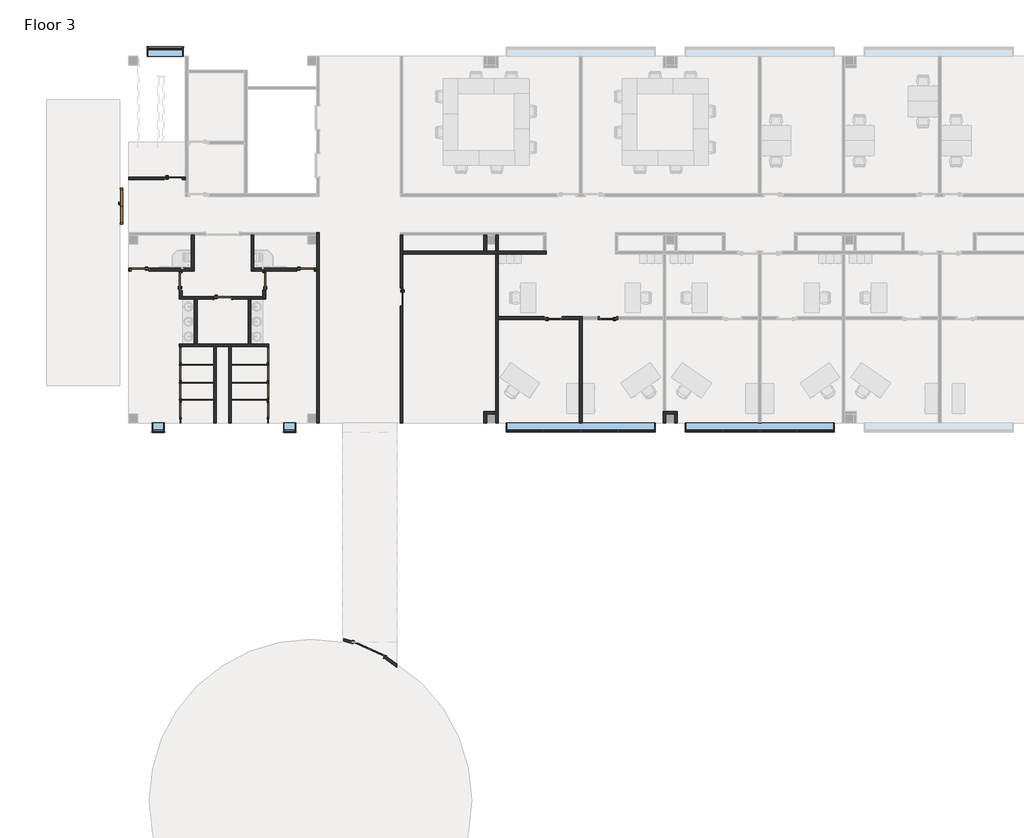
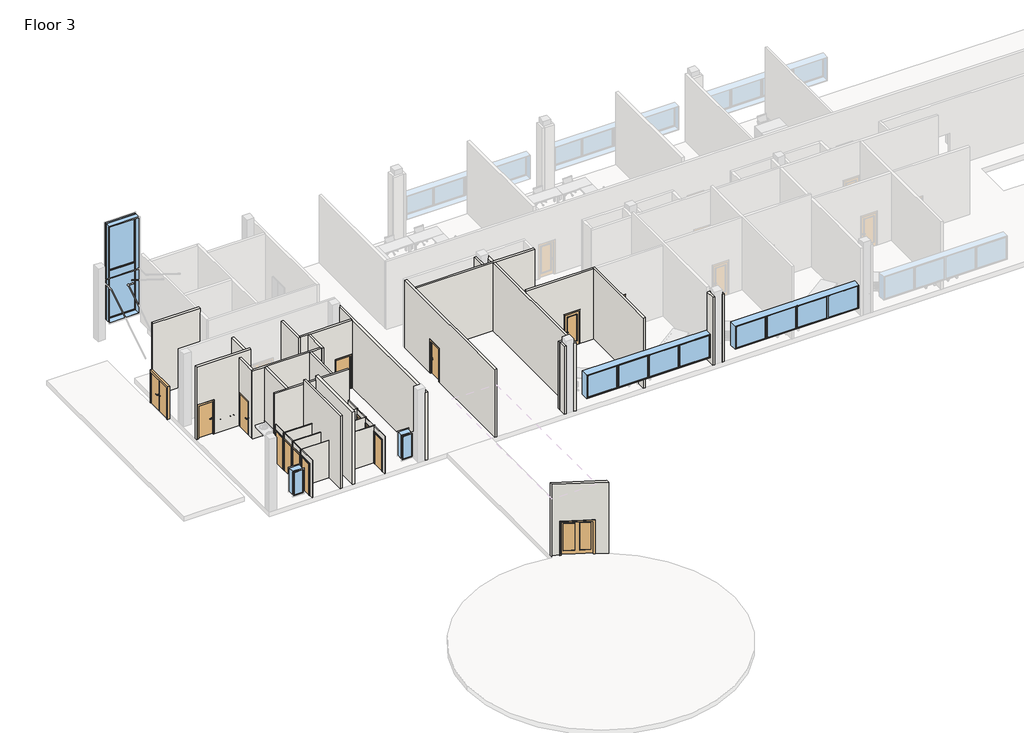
# One storey, part 1 of 6: 41 walls, 19 doors, 5 windows.
"""IFC4 building model written with IfcOpenShell, lengths in millimetres."""

from ifc_helpers import new_model, si_unit, frame, origin, place, context, project, spatial, polyline, circle_curve, outline, extrude, faceted_brep, transform, mapped, element, save
from ifc_brep_helpers import plane_surface, cylinder_surface, revolved_surface, advanced_brep
from components import door_f1125a27, door_efda3cbc, door_36f17018, door_a46f4f49, door_4cfbdd5f, door_4a7c4c71, door_b03708da, door_cef5613e, window_casement_multi_sash_horizontal_25_x_5ft_0e5d08e3, window_double_hung1_stairwell_window_f29d4600, window_69ce9bab

model = new_model("IFC4")

# Units and contexts
model_context = context("Model", 3, world=origin())
ifc_project = project(units=[si_unit("LENGTHUNIT", "METRE", prefix="MILLI")], contexts=[model_context])

# Site, building, storey
site = spatial("IfcSite", under=ifc_project)
building = spatial("IfcBuilding", under=site)
storey = spatial("IfcBuildingStorey", under=building, Name="Floor 3", Elevation=10210.8)

# Doors
placement = place(None, origin())
door_shape = door_f1125a27(model_context)
element("IfcDoor", 1, ObjectType="Dbl Acting Dbl Glass 1 : 68\" x 84\"", at=placement, inside=storey, context=model_context, shape_type="MappedRepresentation", body=[
    mapped(door_shape, transform((9299.170139, 27019.1348029, 10210.8), x_axis=(0.9064869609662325, -0.42223380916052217, 0.0), y_axis=(0.42223380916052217, 0.9064869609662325, 0.0), z_axis=(0.0, 0.0, 1.0))),
])
door_2_shape = door_efda3cbc(model_context)
element("IfcDoor", 2, ObjectType="Door-Passage-Double-Flush : 68\" x 80\"", at=placement, inside=storey, context=model_context, shape_type="MappedRepresentation", body=[
    mapped(door_2_shape, transform((-3186.4602165, 49707.011889, 10210.8), x_axis=(0.0, 1.0, 0.0), y_axis=(-1.0, 0.0, 0.0), z_axis=(0.0, 0.0, 1.0))),
])
door_3_shape = door_36f17018(model_context)
element("IfcDoor", 3, ObjectType="Door-Passage-Single-Flush : 36\" x 84\"", at=placement, inside=storey, context=model_context, shape_type="MappedRepresentation", body=[
    mapped(door_3_shape, transform((3964.0192024, 45858.911889, 10210.8), x_axis=(0.0, 1.0, 0.0), y_axis=(-1.0, 0.0, 0.0), z_axis=(0.0, 0.0, 1.0))),
])
element("IfcDoor", 4, ObjectType="Door-Passage-Single-Flush : 36\" x 84\"", at=placement, inside=storey, context=model_context, shape_type="MappedRepresentation", body=[
    mapped(door_3_shape, transform((-2380.0102165, 46455.811889, 10210.8), x_axis=(-1.0, 0.0, 0.0), y_axis=(0.0, -1.0, 0.0), z_axis=(0.0, 0.0, 1.0))),
])
door_4_shape = door_a46f4f49(model_context)
element("IfcDoor", 5, ObjectType="Door-Passage-Single-Flush : 36\" x 84\"", at=placement, inside=storey, context=model_context, shape_type="MappedRepresentation", body=[
    mapped(door_4_shape, transform((-684.1807976, 51116.711889, 10210.8), x_axis=(1.0, 0.0, 0.0), y_axis=(0.0, 1.0, 0.0), z_axis=(0.0, 0.0, 1.0))),
])
element("IfcDoor", 6, ObjectType="Door-Passage-Single-Flush : 36\" x 84\"", at=placement, inside=storey, context=model_context, shape_type="MappedRepresentation", body=[
    mapped(door_4_shape, transform((-290.4807976, 45852.561889, 10210.8), x_axis=(0.0, 1.0, 0.0), y_axis=(-1.0, 0.0, 0.0), z_axis=(0.0, 0.0, 1.0))),
])
element("IfcDoor", 7, ObjectType="Door-Passage-Single-Flush : 36\" x 84\"", at=placement, inside=storey, context=model_context, shape_type="MappedRepresentation", body=[
    mapped(door_4_shape, transform((6072.2192024, 46455.811889, 10210.8), x_axis=(1.0, 0.0, 0.0), y_axis=(0.0, 1.0, 0.0), z_axis=(0.0, 0.0, 1.0))),
])
element("IfcDoor", 8, ObjectType="Door-Passage-Single-Flush : 36\" x 84\"", at=placement, inside=storey, context=model_context, shape_type="MappedRepresentation", body=[
    mapped(door_4_shape, transform((1836.7692024, 45008.011889, 10210.8), x_axis=(1.0, 0.0, 0.0), y_axis=(0.0, 1.0, 0.0), z_axis=(0.0, 0.0, 1.0))),
])
element("IfcDoor", 9, ObjectType="Door-Passage-Single-Flush : 36\" x 84\"", at=placement, inside=storey, context=model_context, shape_type="MappedRepresentation", body=[
    mapped(door_4_shape, transform((10974.4192024, 45046.111889, 10210.8), x_axis=(0.0, -1.0, 0.0), y_axis=(1.0, 0.0, 0.0), z_axis=(0.0, 0.0, 1.0))),
])
door_5_shape = door_4cfbdd5f(model_context)
element("IfcDoor", 10, ObjectType="Door-Passage-Single-Full_Lite : 36\" x 84\"", at=placement, inside=storey, context=model_context, shape_type="MappedRepresentation", body=[
    mapped(door_5_shape, transform((18727.7692024, 43985.661889, 10210.8), x_axis=(1.0, 0.0, 0.0), y_axis=(0.0, 1.0, 0.0), z_axis=(0.0, 0.0, 1.0))),
])
door_6_shape = door_4a7c4c71(model_context)
element("IfcDoor", 11, ObjectType="Door-Passage-Single-Full_Lite : 36\" x 84\"", at=placement, inside=storey, context=model_context, shape_type="MappedRepresentation", body=[
    mapped(door_6_shape, transform((21521.7692024, 43985.661889, 10210.8), x_axis=(-1.0, 0.0, 0.0), y_axis=(0.0, -1.0, 0.0), z_axis=(0.0, 0.0, 1.0))),
])
door_7_shape = door_b03708da(model_context)
element("IfcDoor", 12, ObjectType="Single-Flush : 30\" x 80\"", at=placement, inside=storey, context=model_context, shape_type="MappedRepresentation", body=[
    mapped(door_7_shape, transform((-322.2307976, 42096.536889, 10210.8), x_axis=(0.0, -1.0, 0.0), y_axis=(1.0, 0.0, 0.0), z_axis=(0.0, 0.0, 1.0))),
])
element("IfcDoor", 13, ObjectType="Single-Flush : 30\" x 80\"", at=placement, inside=storey, context=model_context, shape_type="MappedRepresentation", body=[
    mapped(door_7_shape, transform((-322.2307976, 41169.436889, 10210.8), x_axis=(0.0, -1.0, 0.0), y_axis=(1.0, 0.0, 0.0), z_axis=(0.0, 0.0, 1.0))),
])
element("IfcDoor", 14, ObjectType="Single-Flush : 30\" x 80\"", at=placement, inside=storey, context=model_context, shape_type="MappedRepresentation", body=[
    mapped(door_7_shape, transform((-322.2307976, 40255.036889, 10210.8), x_axis=(0.0, -1.0, 0.0), y_axis=(1.0, 0.0, 0.0), z_axis=(0.0, 0.0, 1.0))),
])
element("IfcDoor", 15, ObjectType="Single-Flush : 30\" x 80\"", at=placement, inside=storey, context=model_context, shape_type="MappedRepresentation", body=[
    mapped(door_7_shape, transform((-322.2307976, 39296.186889, 10210.8), x_axis=(0.0, -1.0, 0.0), y_axis=(1.0, 0.0, 0.0), z_axis=(0.0, 0.0, 1.0))),
])
door_8_shape = door_cef5613e(model_context)
element("IfcDoor", 16, ObjectType="Single-Flush : 30\" x 80\"", at=placement, inside=storey, context=model_context, shape_type="MappedRepresentation", body=[
    mapped(door_8_shape, transform((4148.1692024, 42096.536889, 10210.8), x_axis=(0.0, -1.0, 0.0), y_axis=(1.0, 0.0, 0.0), z_axis=(0.0, 0.0, 1.0))),
])
element("IfcDoor", 17, ObjectType="Single-Flush : 30\" x 80\"", at=placement, inside=storey, context=model_context, shape_type="MappedRepresentation", body=[
    mapped(door_8_shape, transform((4148.1692024, 41169.436889, 10210.8), x_axis=(0.0, -1.0, 0.0), y_axis=(1.0, 0.0, 0.0), z_axis=(0.0, 0.0, 1.0))),
])
element("IfcDoor", 18, ObjectType="Single-Flush : 30\" x 80\"", at=placement, inside=storey, context=model_context, shape_type="MappedRepresentation", body=[
    mapped(door_8_shape, transform((4148.1692024, 40255.036889, 10210.8), x_axis=(0.0, -1.0, 0.0), y_axis=(1.0, 0.0, 0.0), z_axis=(0.0, 0.0, 1.0))),
])
element("IfcDoor", 19, ObjectType="Single-Flush : 30\" x 80\"", at=placement, inside=storey, context=model_context, shape_type="MappedRepresentation", body=[
    mapped(door_8_shape, transform((4148.1692024, 39296.186889, 10210.8), x_axis=(0.0, -1.0, 0.0), y_axis=(1.0, 0.0, 0.0), z_axis=(0.0, 0.0, 1.0))),
])

# Walls
element("IfcWall", 20, ObjectType="Interior - 5 1/2\" Partition (1-hr)", at=placement, inside=storey, context=model_context, shape_type="Brep", body=[
    faceted_brep([(6777.0692024, 38618.324389, 10210.8), (6777.0692024, 48360.811889, 10210.8), (6777.0692024, 48360.811889, 14630.4), (6777.0692024, 38618.324389, 14630.4), (6637.3692024, 38618.324389, 10210.8), (6637.3692024, 38618.324389, 14630.4), (6637.3692024, 46392.311889, 14630.4), (6637.3692024, 46532.011889, 14630.4), (6637.3692024, 48360.811889, 14630.4), (6637.3692024, 48360.811889, 10210.8), (6637.3692024, 48221.111889, 10210.8), (6637.3692024, 46532.011889, 10210.8), (6637.3692024, 46392.311889, 10210.8)], [[[0, 1, 2, 3]], [[4, 5, 6, 7, 8, 9, 10, 11, 12]], [[1, 0, 4, 12, 11, 10, 9]], [[2, 1, 9, 8]], [[0, 3, 5, 4]], [[3, 2, 8, 7, 6, 5]]]),
])
element("IfcWall", 21, ObjectType="Interior - 5 1/2\" Partition (1-hr)", at=placement, inside=storey, context=model_context, shape_type="SweptSolid", body=[
    extrude(outline(polyline([(12446.0, -176.1807976), (10210.8, -176.1807976), (10210.8, -61.8807976), (14935.2, -61.8807976), (14935.2, -2965.7977165), (10210.8, -2965.7977165), (10210.8, -1192.1807976), (12446.0, -1192.1807976), (12446.0, -176.1807976)])), frame((0.0, 51053.211889, 0.0), z_axis=(0.0, 1.0, 0.0), x_axis=(0.0, 0.0, 1.0)), (0.0, 0.0, 1.0), 139.7),
])
element("IfcWall", 22, ObjectType="Interior - 5 1/2\" Partition (1-hr)", at=placement, inside=storey, context=model_context, shape_type="Brep", body=[
    faceted_brep([(3290.9192024, 48221.111889, 10210.8), (3290.9192024, 46392.311889, 10210.8), (3290.9192024, 46392.311889, 14630.4), (3290.9192024, 48221.111889, 14630.4), (3430.6192024, 48221.111889, 10210.8), (3430.6192024, 48221.111889, 14630.4), (3430.6192024, 46532.011889, 14630.4), (3430.6192024, 46392.311889, 14630.4), (3430.6192024, 46392.311889, 10210.8), (3430.6192024, 46532.011889, 10210.8)], [[[0, 1, 2, 3]], [[4, 5, 6, 7, 8, 9]], [[1, 0, 4, 9, 8]], [[2, 1, 8, 7]], [[0, 3, 5, 4]], [[3, 2, 7, 6, 5]]]),
])
element("IfcWall", 23, ObjectType="Interior - 5 1/2\" Partition (1-hr)", at=placement, inside=storey, context=model_context, shape_type="Brep", body=[
    faceted_brep([(6580.2192024, 46392.311889, 12446.0), (6580.2192024, 46392.311889, 10210.8), (6637.3692024, 46392.311889, 10210.8), (6637.3692024, 46392.311889, 14630.4), (4040.2192024, 46392.311889, 14630.4), (3900.5192024, 46392.311889, 14630.4), (3430.6192024, 46392.311889, 14630.4), (3430.6192024, 46392.311889, 10210.8), (3900.5192024, 46392.311889, 10210.8), (4040.2192024, 46392.311889, 10210.8), (5564.2192024, 46392.311889, 10210.8), (5564.2192024, 46392.311889, 12446.0), (6637.3692024, 46532.011889, 10210.8), (6580.2192024, 46532.011889, 10210.8), (6580.2192024, 46532.011889, 12446.0), (5564.2192024, 46532.011889, 12446.0), (5564.2192024, 46532.011889, 10210.8), (3430.6192024, 46532.011889, 10210.8), (3430.6192024, 46532.011889, 14630.4), (6637.3692024, 46532.011889, 14630.4)], [[[0, 1, 2, 3, 4, 5, 6, 7, 8, 9, 10, 11]], [[12, 13, 14, 15, 16, 17, 18, 19]], [[2, 1, 13, 12]], [[10, 9, 8, 7, 17, 16]], [[7, 6, 18, 17]], [[3, 2, 12, 19]], [[6, 5, 4, 3, 19, 18]], [[14, 13, 1, 0]], [[15, 14, 0, 11]], [[16, 15, 11, 10]]]),
])
element("IfcWall", 24, ObjectType="Interior - 5 1/2\" Partition (1-hr)", at=placement, inside=storey, context=model_context, shape_type="Brep", body=[
    faceted_brep([(-2965.7977165, 46392.311889, 14935.2), (382.6192024, 46392.311889, 14935.2), (382.6192024, 46532.011889, 14935.2), (-2965.7977165, 46532.011889, 14935.2), (-2965.7977165, 46392.311889, 10210.8), (-2888.0102165, 46392.311889, 10210.8), (-2888.0102165, 46392.311889, 12446.0), (-1872.0102165, 46392.311889, 12446.0), (-1872.0102165, 46392.311889, 10210.8), (-366.6807976, 46392.311889, 10210.8), (-226.9807976, 46392.311889, 10210.8), (382.6192024, 46392.311889, 10210.8), (-2888.0102165, 46532.011889, 12446.0), (-2888.0102165, 46532.011889, 10210.8), (-2965.7977165, 46532.011889, 10210.8), (382.6192024, 46532.011889, 14630.4), (382.6192024, 46532.011889, 10210.8), (242.9192024, 46532.011889, 10210.8), (-1872.0102165, 46532.011889, 10210.8), (-1872.0102165, 46532.011889, 12446.0)], [[[0, 1, 2, 3]], [[4, 5, 6, 7, 8, 9, 10, 11, 1, 0]], [[12, 13, 14, 3, 2, 15, 16, 17, 18, 19]], [[14, 13, 5, 4]], [[18, 17, 16, 11, 10, 9, 8]], [[1, 11, 16, 15, 2]], [[4, 0, 3, 14]], [[6, 5, 13, 12]], [[7, 6, 12, 19]], [[8, 7, 19, 18]]]),
])
element("IfcWall", 25, ObjectType="Interior - 5 1/2\" Partition (1-hr)", at=placement, inside=storey, context=model_context, shape_type="SweptSolid", body=[
    extrude(outline(polyline([(382.6192024, 48221.111889), (382.6192024, 46532.011889), (242.9192024, 46532.011889), (242.9192024, 48221.111889), (382.6192024, 48221.111889)])), frame((0.0, 0.0, 10210.8), z_axis=(0.0, 0.0, 1.0), x_axis=(1.0, 0.0, 0.0)), (0.0, 0.0, 1.0), 4419.6),
])
element("IfcWall", 26, ObjectType="Interior - 5 1/2\" Partition (1-hr)", at=placement, inside=storey, context=model_context, shape_type="Brep", body=[
    faceted_brep([(3900.5192024, 46392.311889, 10210.8), (3900.5192024, 46366.911889, 10210.8), (3900.5192024, 46366.911889, 12446.0), (3900.5192024, 45350.911889, 12446.0), (3900.5192024, 45350.911889, 10210.8), (3900.5192024, 45084.211889, 10210.8), (3900.5192024, 44944.511889, 10210.8), (3900.5192024, 44944.511889, 14630.4), (3900.5192024, 45084.211889, 14630.4), (3900.5192024, 46392.311889, 14630.4), (4040.2192024, 46366.911889, 12446.0), (4040.2192024, 46366.911889, 10210.8), (4040.2192024, 46392.311889, 10210.8), (4040.2192024, 46392.311889, 14630.4), (4040.2192024, 44944.511889, 14630.4), (4040.2192024, 44944.511889, 10210.8), (4040.2192024, 45350.911889, 10210.8), (4040.2192024, 45350.911889, 12446.0)], [[[0, 1, 2, 3, 4, 5, 6, 7, 8, 9]], [[10, 11, 12, 13, 14, 15, 16, 17]], [[12, 11, 1, 0]], [[16, 15, 6, 5, 4]], [[0, 9, 13, 12]], [[7, 6, 15, 14]], [[9, 8, 7, 14, 13]], [[2, 1, 11, 10]], [[3, 2, 10, 17]], [[4, 3, 17, 16]]]),
])
element("IfcWall", 27, ObjectType="Interior - 5 1/2\" Partition (1-hr)", at=placement, inside=storey, context=model_context, shape_type="Brep", body=[
    faceted_brep([(3900.5192024, 45084.211889, 10210.8), (2344.7692024, 45084.211889, 10210.8), (2344.7692024, 45084.211889, 12446.0), (1328.7692024, 45084.211889, 12446.0), (1328.7692024, 45084.211889, 10210.8), (-226.9807976, 45084.211889, 10210.8), (-366.6807976, 45084.211889, 10210.8), (-366.6807976, 45084.211889, 14630.4), (-226.9807976, 45084.211889, 14630.4), (3900.5192024, 45084.211889, 14630.4), (2344.7692024, 44944.511889, 12446.0), (2344.7692024, 44944.511889, 10210.8), (3138.5192024, 44944.511889, 10210.8), (3278.2192024, 44944.511889, 10210.8), (3900.5192024, 44944.511889, 10210.8), (3900.5192024, 44944.511889, 14630.4), (3278.2192024, 44944.511889, 14630.4), (3138.5192024, 44944.511889, 14630.4), (535.0192024, 44944.511889, 14630.4), (395.3192024, 44944.511889, 14630.4), (-366.6807976, 44944.511889, 14630.4), (-366.6807976, 44944.511889, 10210.8), (395.3192024, 44944.511889, 10210.8), (535.0192024, 44944.511889, 10210.8), (1328.7692024, 44944.511889, 10210.8), (1328.7692024, 44944.511889, 12446.0)], [[[0, 1, 2, 3, 4, 5, 6, 7, 8, 9]], [[10, 11, 12, 13, 14, 15, 16, 17, 18, 19, 20, 21, 22, 23, 24, 25]], [[14, 13, 12, 11, 1, 0]], [[24, 23, 22, 21, 6, 5, 4]], [[0, 9, 15, 14]], [[7, 6, 21, 20]], [[9, 8, 7, 20, 19, 18, 17, 16, 15]], [[2, 1, 11, 10]], [[3, 2, 10, 25]], [[4, 3, 25, 24]]]),
])
element("IfcWall", 28, ObjectType="Interior - 5 1/2\" Partition (1-hr)", at=placement, inside=storey, context=model_context, shape_type="SweptSolid", body=[
    extrude(outline(polyline([(46392.311889, 10210.8), (46360.561889, 10210.8), (46360.561889, 12446.0), (45344.561889, 12446.0), (45344.561889, 10210.8), (45084.211889, 10210.8), (45084.211889, 14630.4), (46392.311889, 14630.4), (46392.311889, 10210.8)])), frame((-366.6807976, 0.0, 0.0), z_axis=(1.0, 0.0, 0.0), x_axis=(0.0, 1.0, 0.0)), (0.0, 0.0, 1.0), 139.7),
])
element("IfcWall", 29, ObjectType="Interior - 5 1/2\" Partition (1-hr)", at=placement, inside=storey, context=model_context, shape_type="Brep", body=[
    faceted_brep([(11050.6192024, 48221.111889, 10210.8), (11050.6192024, 48221.111889, 14630.4), (11050.6192024, 47401.961889, 14630.4), (11050.6192024, 47262.261889, 14630.4), (11050.6192024, 38618.324389, 14630.4), (11050.6192024, 38618.324389, 10210.8), (11050.6192024, 44538.111889, 10210.8), (11050.6192024, 44538.111889, 12446.0), (11050.6192024, 45554.111889, 12446.0), (11050.6192024, 45554.111889, 10210.8), (11050.6192024, 47262.261889, 10210.8), (11050.6192024, 47401.961889, 10210.8), (10910.9192024, 48221.111889, 14630.4), (10910.9192024, 48221.111889, 10210.8), (10910.9192024, 45554.111889, 10210.8), (10910.9192024, 45554.111889, 12446.0), (10910.9192024, 44538.111889, 12446.0), (10910.9192024, 44538.111889, 10210.8), (10910.9192024, 38618.324389, 10210.8), (10910.9192024, 38618.324389, 14630.4)], [[[0, 1, 2, 3, 4, 5, 6, 7, 8, 9, 10, 11]], [[12, 13, 14, 15, 16, 17, 18, 19]], [[13, 0, 11, 10, 9, 14]], [[5, 18, 17, 6]], [[13, 12, 1, 0]], [[19, 18, 5, 4]], [[12, 19, 4, 3, 2, 1]], [[16, 7, 6, 17]], [[7, 16, 15, 8]], [[8, 15, 14, 9]]]),
])
element("IfcWall", 30, ObjectType="Interior - 5 1/2\" Partition (1-hr)", at=placement, inside=storey, context=model_context, shape_type="SweptSolid", body=[
    extrude(outline(polyline([(15324.1692024, 48221.111889), (15324.1692024, 47401.961889), (15184.4692024, 47401.961889), (15184.4692024, 48221.111889), (15324.1692024, 48221.111889)])), frame((0.0, 0.0, 10210.8), z_axis=(0.0, 0.0, 1.0), x_axis=(1.0, 0.0, 0.0)), (0.0, 0.0, 1.0), 4419.6),
])
element("IfcWall", 31, ObjectType="Interior - 5 1/2\" Partition (1-hr)", at=placement, inside=storey, context=model_context, shape_type="SweptSolid", body=[
    extrude(outline(polyline([(15921.0692024, 48221.111889), (15921.0692024, 47401.961889), (15781.3692024, 47401.961889), (15781.3692024, 48221.111889), (15921.0692024, 48221.111889)])), frame((0.0, 0.0, 10210.8), z_axis=(0.0, 0.0, 1.0), x_axis=(1.0, 0.0, 0.0)), (0.0, 0.0, 1.0), 4419.6),
])
element("IfcWall", 32, ObjectType="Interior - 5 1/2\" Partition (1-hr)", at=placement, inside=storey, context=model_context, shape_type="Brep", body=[
    faceted_brep([(15781.3692024, 47262.261889, 10210.8), (15781.3692024, 39216.811889, 10210.8), (15781.3692024, 39077.111889, 10210.8), (15781.3692024, 38618.324389, 10210.8), (15781.3692024, 38618.324389, 14630.4), (15781.3692024, 39077.111889, 14630.4), (15781.3692024, 39216.811889, 14630.4), (15781.3692024, 47262.261889, 14630.4), (15921.0692024, 47262.261889, 10210.8), (15921.0692024, 47262.261889, 14630.4), (15921.0692024, 38618.324389, 14630.4), (15921.0692024, 38618.324389, 10210.8), (15921.0692024, 43909.461889, 10210.8), (15921.0692024, 44049.161889, 10210.8)], [[[0, 1, 2, 3, 4, 5, 6, 7]], [[8, 9, 10, 11, 12, 13]], [[3, 2, 1, 0, 8, 13, 12, 11]], [[4, 3, 11, 10]], [[0, 7, 9, 8]], [[7, 6, 5, 4, 10, 9]]]),
])
element("IfcWall", 33, ObjectType="Interior - 5 1/2\" Partition (1-hr)", at=placement, inside=storey, context=model_context, shape_type="Brep", body=[
    faceted_brep([(15781.3692024, 39216.811889, 10210.8), (15184.4692024, 39216.811889, 10210.8), (15184.4692024, 39216.811889, 14630.4), (15781.3692024, 39216.811889, 14630.4), (15781.3692024, 39077.111889, 10210.8), (15781.3692024, 39077.111889, 14630.4), (15324.1692024, 39077.111889, 14630.4), (15184.4692024, 39077.111889, 14630.4), (15184.4692024, 39077.111889, 10210.8), (15324.1692024, 39077.111889, 10210.8)], [[[0, 1, 2, 3]], [[4, 5, 6, 7, 8, 9]], [[1, 0, 4, 9, 8]], [[2, 1, 8, 7]], [[0, 3, 5, 4]], [[3, 2, 7, 6, 5]]]),
])
element("IfcWall", 34, ObjectType="Interior - 5 1/2\" Partition (1-hr)", at=placement, inside=storey, context=model_context, shape_type="SweptSolid", body=[
    extrude(outline(polyline([(15184.4692024, 38618.324389), (15184.4692024, 39077.111889), (15324.1692024, 39077.111889), (15324.1692024, 38618.324389), (15184.4692024, 38618.324389)])), frame((0.0, 0.0, 10210.8), z_axis=(0.0, 0.0, 1.0), x_axis=(1.0, 0.0, 0.0)), (0.0, 0.0, 1.0), 4419.6),
])
element("IfcWall", 35, ObjectType="Interior - 5 1/2\" Partition (1-hr)", at=placement, inside=storey, context=model_context, shape_type="Brep", body=[
    faceted_brep([(24468.1692024, 38618.324389, 10210.8), (24468.1692024, 39077.111889, 10210.8), (24468.1692024, 39216.811889, 10210.8), (24468.1692024, 39216.811889, 14630.4), (24468.1692024, 39077.111889, 14630.4), (24468.1692024, 38618.324389, 14630.4), (24328.4692024, 38618.324389, 10210.8), (24328.4692024, 38618.324389, 14630.4), (24328.4692024, 39216.811889, 14630.4), (24328.4692024, 39216.811889, 10210.8)], [[[0, 1, 2, 3, 4, 5]], [[6, 7, 8, 9]], [[2, 1, 0, 6, 9]], [[3, 2, 9, 8]], [[0, 5, 7, 6]], [[5, 4, 3, 8, 7]]]),
])
element("IfcWall", 36, ObjectType="Interior - 5 1/2\" Partition (1-hr)", at=placement, inside=storey, context=model_context, shape_type="Brep", body=[
    faceted_brep([(24468.1692024, 39077.111889, 10210.8), (24925.3692024, 39077.111889, 10210.8), (25065.0692024, 39077.111889, 10210.8), (25065.0692024, 39077.111889, 14630.4), (24925.3692024, 39077.111889, 14630.4), (24468.1692024, 39077.111889, 14630.4), (24468.1692024, 39216.811889, 10210.8), (24468.1692024, 39216.811889, 14630.4), (25065.0692024, 39216.811889, 14630.4), (25065.0692024, 39216.811889, 10210.8)], [[[0, 1, 2, 3, 4, 5]], [[6, 7, 8, 9]], [[2, 1, 0, 6, 9]], [[3, 2, 9, 8]], [[0, 5, 7, 6]], [[5, 4, 3, 8, 7]]]),
])
element("IfcWall", 37, ObjectType="Interior - 5 1/2\" Partition (1-hr)", at=placement, inside=storey, context=model_context, shape_type="SweptSolid", body=[
    extrude(outline(polyline([(24925.3692024, 38618.324389), (24925.3692024, 39077.111889), (25065.0692024, 39077.111889), (25065.0692024, 38618.324389), (24925.3692024, 38618.324389)])), frame((0.0, 0.0, 10210.8), z_axis=(0.0, 0.0, 1.0), x_axis=(1.0, 0.0, 0.0)), (0.0, 0.0, 1.0), 4419.6),
])
element("IfcWall", 38, ObjectType="Interior - 5 1/2\" Partition (1-hr)", at=placement, inside=storey, context=model_context, shape_type="Brep", body=[
    faceted_brep([(20054.9192024, 44049.161889, 10210.8), (20054.9192024, 43909.461889, 10210.8), (20054.9192024, 38618.324389, 10210.8), (20054.9192024, 38618.324389, 14782.8), (20054.9192024, 43909.461889, 14782.8), (20054.9192024, 44049.161889, 14782.8), (20194.6192024, 44049.161889, 10210.8), (20194.6192024, 44049.161889, 14782.8), (20194.6192024, 43909.461889, 14782.8), (20194.6192024, 38618.324389, 14782.8), (20194.6192024, 38618.324389, 10210.8), (20194.6192024, 43909.461889, 10210.8)], [[[0, 1, 2, 3, 4, 5]], [[6, 7, 8, 9, 10, 11]], [[2, 1, 0, 6, 11, 10]], [[5, 4, 3, 9, 8, 7]], [[0, 5, 7, 6]], [[3, 2, 10, 9]]]),
])
element("IfcWall", 39, ObjectType="Interior - 5 1/2\" Partition (1-hr)", at=placement, inside=storey, context=model_context, shape_type="SweptSolid", body=[
    extrude(outline(polyline([(12446.0, 19235.7692024), (10210.8, 19235.7692024), (10210.8, 20054.9192024), (14782.8, 20054.9192024), (14782.8, 15921.0692024), (10210.8, 15921.0692024), (10210.8, 18219.7692024), (12446.0, 18219.7692024), (12446.0, 19235.7692024)])), frame((0.0, 43909.461889, 0.0), z_axis=(0.0, 1.0, 0.0), x_axis=(0.0, 0.0, 1.0)), (0.0, 0.0, 1.0), 139.7),
])
element("IfcWall", 40, ObjectType="Interior - 5 1/2\" Partition (1-hr)", at=placement, inside=storey, context=model_context, shape_type="AdvancedBrep", body=[
    advanced_brep(
    [(7986.4026119, 27482.7077136, 14935.2), (10723.2526119, 26136.6925081, 14935.2), (10723.2526119, 26315.9396106, 14935.2), (7986.4026119, 27626.0643709, 14935.2), (10723.2526119, 26136.6925081, 10210.8), (10062.76332, 26613.1684065, 10210.8), (10122.2300488, 26740.8365683, 10210.8), (10723.2526119, 26315.9396106, 10210.8), (8497.079041, 27342.4506417, 10210.8), (7986.4026119, 27482.7077136, 10210.8), (7986.4026119, 27626.0643709, 10210.8), (8556.5457698, 27470.1188035, 10210.8), (10062.76332, 26613.1684065, 12344.4), (8497.079041, 27342.4506417, 12344.4), (10122.2300488, 26740.8365683, 12344.4), (8556.5457698, 27470.1188035, 12344.4)],
    [
        (0, 1, circle_curve(frame((6459.003305, 20921.6263936, 14935.2), z_axis=(0.0, 0.0, -1.0), x_axis=(1.0, 0.0, 0.0)), 6736.5225992)),
        (1, 2),
        (2, 3, circle_curve(frame((6459.003305, 20921.6263936, 14935.2), z_axis=(0.0, 0.0, 1.0), x_axis=(1.0, 0.0, 0.0)), 6876.2225992)),
        (3, 0),
        (4, 5, circle_curve(frame((6459.003305, 20921.6263936, 10210.8), z_axis=(0.0, 0.0, 1.0), x_axis=(1.0, 0.0, 0.0)), 6736.5225992)),
        (5, 6),
        (6, 7, circle_curve(frame((6459.003305, 20921.6263936, 10210.8), z_axis=(0.0, 0.0, -1.0), x_axis=(1.0, 0.0, 0.0)), 6876.2225992)),
        (7, 4),
        (8, 9, circle_curve(frame((6459.003305, 20921.6263936, 10210.8), z_axis=(0.0, 0.0, 1.0), x_axis=(1.0, 0.0, 0.0)), 6736.5225992)),
        (9, 10),
        (10, 11, circle_curve(frame((6459.003305, 20921.6263936, 10210.8), z_axis=(0.0, 0.0, -1.0), x_axis=(1.0, 0.0, 0.0)), 6876.2225992)),
        (11, 8),
        (12, 5),
        (4, 1),
        (0, 9),
        (8, 13),
        (13, 12, circle_curve(frame((6459.003305, 20921.6263936, 12344.4), z_axis=(0.0, 0.0, -1.0), x_axis=(1.0, 0.0, 0.0)), 6736.5225992)),
        (6, 14),
        (14, 15, circle_curve(frame((6459.003305, 20921.6263936, 12344.4), z_axis=(0.0, 0.0, 1.0), x_axis=(1.0, 0.0, 0.0)), 6876.2225992)),
        (15, 11),
        (10, 3),
        (2, 7),
        (12, 14),
        (13, 15),
    ],
    [
        plane_surface(frame((13195.5259042, 20921.6263936, 14935.2), z_axis=(0.0, 0.0, 1.0), x_axis=(0.0, -1.0, 0.0))),
        plane_surface(frame((13195.5259042, 20921.6263936, 10210.8), z_axis=(0.0, 0.0, -1.0), x_axis=(0.0, 1.0, 0.0))),
        revolved_surface(polyline([(13195.5259042, 20921.6263936, 10210.8), (13195.5259042, 20921.6263936, 14935.2)]), (6459.003305, 20921.6263936, 10210.8), (0.0, 0.0, -1.0)),
        cylinder_surface(frame((6459.003305, 20921.6263936, 10210.8), z_axis=(0.0, 0.0, 1.0), x_axis=(1.0, 0.0, 0.0)), 6876.2225992),
        plane_surface(frame((10723.2526119, 26704.0878586, -304.8), z_axis=(1.0, 0.0, 0.0), x_axis=(0.0, -1.0, 0.0))),
        plane_surface(frame((7986.4026119, 27588.3201792, -304.8), z_axis=(-1.0, 0.0, 0.0), x_axis=(0.0, 1.0, 0.0))),
        plane_surface(frame((10122.2300488, 26740.8365683, 10210.8), z_axis=(-0.9064869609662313, 0.4222338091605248, 0.0), x_axis=(-0.4222338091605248, -0.9064869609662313, 0.0))),
        plane_surface(frame((10122.2300488, 26740.8365683, 12344.4), z_axis=(0.0, 0.0, -1.0), x_axis=(-0.4222338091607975, -0.9064869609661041, 0.0))),
        plane_surface(frame((8556.5457698, 27470.1188035, 12344.4), z_axis=(0.9064869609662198, -0.4222338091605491, 0.0), x_axis=(-0.4222338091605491, -0.9064869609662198, 0.0))),
    ],
    [
        (0, [[1, 2, 3, 4]]),
        (1, [[5, 6, 7, 8]]),
        (1, [[9, 10, 11, 12]]),
        (2, [[13, -5, 14, -1, 15, -9, 16, 17]]),
        (3, [[-7, 18, 19, 20, -11, 21, -3, 22]]),
        (4, [[-2, -14, -8, -22]]),
        (5, [[-4, -21, -10, -15]]),
        (6, [[-18, -6, -13, 23]]),
        (7, [[-19, -23, -17, 24]]),
        (8, [[-20, -24, -16, -12]]),
    ],
),
])
element("IfcWall", 41, ObjectType="Interior - 5 1/2\" Partition (1-hr)", at=placement, inside=storey, context=model_context, shape_type="Brep", body=[
    faceted_brep([(18359.4692024, 47401.961889, 10210.8), (18219.7692024, 47401.961889, 10210.8), (15921.0692024, 47401.961889, 10210.8), (15781.3692024, 47401.961889, 10210.8), (15324.1692024, 47401.961889, 10210.8), (15184.4692024, 47401.961889, 10210.8), (11050.6192024, 47401.961889, 10210.8), (11050.6192024, 47401.961889, 14630.4), (15184.4692024, 47401.961889, 14630.4), (15324.1692024, 47401.961889, 14630.4), (15781.3692024, 47401.961889, 14630.4), (15921.0692024, 47401.961889, 14630.4), (18219.7692024, 47401.961889, 14630.4), (18359.4692024, 47401.961889, 14630.4), (18359.4692024, 47262.261889, 10210.8), (18359.4692024, 47262.261889, 14630.4), (15921.0692024, 47262.261889, 14630.4), (15781.3692024, 47262.261889, 14630.4), (11050.6192024, 47262.261889, 14630.4), (11050.6192024, 47262.261889, 10210.8), (15781.3692024, 47262.261889, 10210.8), (15921.0692024, 47262.261889, 10210.8)], [[[0, 1, 2, 3, 4, 5, 6, 7, 8, 9, 10, 11, 12, 13]], [[14, 15, 16, 17, 18, 19, 20, 21]], [[6, 5, 4, 3, 2, 1, 0, 14, 21, 20, 19]], [[0, 13, 15, 14]], [[7, 6, 19, 18]], [[13, 12, 11, 10, 9, 8, 7, 18, 17, 16, 15]]]),
])
element("IfcWall", 42, ObjectType="Interior - 5 1/2\" Partition (1-hr)", at=placement, inside=storey, context=model_context, shape_type="Brep", body=[
    faceted_brep([(2147.9192024, 42518.811889, 10210.8), (2147.9192024, 38618.324389, 10210.8), (2147.9192024, 38618.324389, 14935.2), (2147.9192024, 42518.811889, 14935.2), (2287.6192024, 42518.811889, 10210.8), (2287.6192024, 42518.811889, 14935.2), (2287.6192024, 38618.324389, 14935.2), (2287.6192024, 38618.324389, 10210.8), (2287.6192024, 39788.311889, 10210.8), (2287.6192024, 39813.711889, 10210.8), (2287.6192024, 40677.311889, 10210.8), (2287.6192024, 40702.711889, 10210.8), (2287.6192024, 41591.711889, 10210.8), (2287.6192024, 41617.111889, 10210.8)], [[[0, 1, 2, 3]], [[4, 5, 6, 7, 8, 9, 10, 11, 12, 13]], [[1, 0, 4, 13, 12, 11, 10, 9, 8, 7]], [[3, 2, 6, 5]], [[0, 3, 5, 4]], [[2, 1, 7, 6]]]),
])
element("IfcWall", 43, ObjectType="Interior - 5 1/2\" Partition (1-hr)", at=placement, inside=storey, context=model_context, shape_type="Brep", body=[
    faceted_brep([(-373.0307976, 42518.811889, 10210.8), (-373.0307976, 42518.811889, 14630.4), (-373.0307976, 42658.511889, 14630.4), (-373.0307976, 42658.511889, 10210.8), (4198.9692024, 42518.811889, 14630.4), (4198.9692024, 42518.811889, 10210.8), (4198.9692024, 42658.511889, 10210.8), (4198.9692024, 42658.511889, 14630.4), (-334.9307976, 42518.811889, 10210.8), (-309.5307976, 42518.811889, 10210.8), (1385.9192024, 42518.811889, 10210.8), (1525.6192024, 42518.811889, 10210.8), (2147.9192024, 42518.811889, 10210.8), (2287.6192024, 42518.811889, 10210.8), (4135.4692024, 42518.811889, 10210.8), (4160.8692024, 42518.811889, 10210.8), (395.3192024, 42658.511889, 14630.4), (535.0192024, 42658.511889, 14630.4), (3138.5192024, 42658.511889, 14630.4), (3278.2192024, 42658.511889, 14630.4), (3278.2192024, 42658.511889, 10210.8), (3138.5192024, 42658.511889, 10210.8), (535.0192024, 42658.511889, 10210.8), (395.3192024, 42658.511889, 10210.8)], [[[0, 1, 2, 3]], [[4, 5, 6, 7]], [[0, 8, 9, 10, 11, 12, 13, 14, 15, 5, 4, 1]], [[3, 2, 16, 17, 18, 19, 7, 6, 20, 21, 22, 23]], [[5, 15, 14, 13, 12, 11, 10, 9, 8, 0, 3, 23, 22, 21, 20, 6]], [[1, 4, 7, 19, 18, 17, 16, 2]]]),
])
element("IfcWall", 44, ObjectType="Interior - 5 1/2\" Partition (1-hr)", at=placement, inside=storey, context=model_context, shape_type="SweptSolid", body=[
    extrude(outline(polyline([(3278.2192024, 44944.511889), (3278.2192024, 42658.511889), (3138.5192024, 42658.511889), (3138.5192024, 44944.511889), (3278.2192024, 44944.511889)])), frame((0.0, 0.0, 10210.8), z_axis=(0.0, 0.0, 1.0), x_axis=(1.0, 0.0, 0.0)), (0.0, 0.0, 1.0), 4419.6),
])
element("IfcWall", 45, ObjectType="Interior - 5 1/2\" Partition (1-hr)", at=placement, inside=storey, context=model_context, shape_type="Brep", body=[
    faceted_brep([(1385.9192024, 42518.811889, 10210.8), (1385.9192024, 41617.111889, 10210.8), (1385.9192024, 41591.711889, 10210.8), (1385.9192024, 40702.711889, 10210.8), (1385.9192024, 40677.311889, 10210.8), (1385.9192024, 39813.711889, 10210.8), (1385.9192024, 39788.311889, 10210.8), (1385.9192024, 38618.324389, 10210.8), (1385.9192024, 38618.324389, 14935.2), (1385.9192024, 42518.811889, 14935.2), (1525.6192024, 42518.811889, 10210.8), (1525.6192024, 42518.811889, 14935.2), (1525.6192024, 38618.324389, 14935.2), (1525.6192024, 38618.324389, 10210.8)], [[[0, 1, 2, 3, 4, 5, 6, 7, 8, 9]], [[10, 11, 12, 13]], [[7, 6, 5, 4, 3, 2, 1, 0, 10, 13]], [[9, 8, 12, 11]], [[0, 9, 11, 10]], [[8, 7, 13, 12]]]),
])
element("IfcWall", 46, ObjectType="Interior - 5 1/2\" Partition (1-hr)", at=placement, inside=storey, context=model_context, shape_type="SweptSolid", body=[
    extrude(outline(polyline([(395.3192024, 42658.511889), (395.3192024, 44944.511889), (535.0192024, 44944.511889), (535.0192024, 42658.511889), (395.3192024, 42658.511889)])), frame((0.0, 0.0, 10210.8), z_axis=(0.0, 0.0, 1.0), x_axis=(1.0, 0.0, 0.0)), (0.0, 0.0, 1.0), 4419.6),
])
element("IfcWall", 47, ObjectType="toilet partition - 1\"", at=placement, inside=storey, context=model_context, shape_type="Brep", body=[
    faceted_brep([(2287.6192024, 39788.311889, 10210.8), (4135.4692024, 39788.311889, 10210.8), (4160.8692024, 39788.311889, 10210.8), (4198.9692024, 39788.311889, 10210.8), (4198.9692024, 39788.311889, 12649.2), (4160.8692024, 39788.311889, 12649.2), (4135.4692024, 39788.311889, 12649.2), (2287.6192024, 39788.311889, 12649.2), (2287.6192024, 39813.711889, 10210.8), (2287.6192024, 39813.711889, 12649.2), (4135.4692024, 39813.711889, 12649.2), (4160.8692024, 39813.711889, 12649.2), (4198.9692024, 39813.711889, 12649.2), (4198.9692024, 39813.711889, 10210.8), (4160.8692024, 39813.711889, 10210.8), (4135.4692024, 39813.711889, 10210.8)], [[[0, 1, 2, 3, 4, 5, 6, 7]], [[8, 9, 10, 11, 12, 13, 14, 15]], [[3, 2, 1, 0, 8, 15, 14, 13]], [[4, 3, 13, 12]], [[7, 6, 5, 4, 12, 11, 10, 9]], [[0, 7, 9, 8]]]),
])
element("IfcWall", 48, ObjectType="toilet partition - 1\"", at=placement, inside=storey, context=model_context, shape_type="Brep", body=[
    faceted_brep([(2287.6192024, 40677.311889, 10210.8), (4135.4692024, 40677.311889, 10210.8), (4160.8692024, 40677.311889, 10210.8), (4198.9692024, 40677.311889, 10210.8), (4198.9692024, 40677.311889, 12649.2), (4160.8692024, 40677.311889, 12649.2), (4135.4692024, 40677.311889, 12649.2), (2287.6192024, 40677.311889, 12649.2), (2287.6192024, 40702.711889, 10210.8), (2287.6192024, 40702.711889, 12649.2), (4135.4692024, 40702.711889, 12649.2), (4160.8692024, 40702.711889, 12649.2), (4198.9692024, 40702.711889, 12649.2), (4198.9692024, 40702.711889, 10210.8), (4160.8692024, 40702.711889, 10210.8), (4135.4692024, 40702.711889, 10210.8)], [[[0, 1, 2, 3, 4, 5, 6, 7]], [[8, 9, 10, 11, 12, 13, 14, 15]], [[3, 2, 1, 0, 8, 15, 14, 13]], [[4, 3, 13, 12]], [[7, 6, 5, 4, 12, 11, 10, 9]], [[0, 7, 9, 8]]]),
])
element("IfcWall", 49, ObjectType="toilet partition - 1\"", at=placement, inside=storey, context=model_context, shape_type="Brep", body=[
    faceted_brep([(2287.6192024, 41591.711889, 10210.8), (4135.4692024, 41591.711889, 10210.8), (4160.8692024, 41591.711889, 10210.8), (4198.9692024, 41591.711889, 10210.8), (4198.9692024, 41591.711889, 12649.2), (4160.8692024, 41591.711889, 12649.2), (4135.4692024, 41591.711889, 12649.2), (2287.6192024, 41591.711889, 12649.2), (2287.6192024, 41617.111889, 10210.8), (2287.6192024, 41617.111889, 12649.2), (4135.4692024, 41617.111889, 12649.2), (4160.8692024, 41617.111889, 12649.2), (4198.9692024, 41617.111889, 12649.2), (4198.9692024, 41617.111889, 10210.8), (4160.8692024, 41617.111889, 10210.8), (4135.4692024, 41617.111889, 10210.8)], [[[0, 1, 2, 3, 4, 5, 6, 7]], [[8, 9, 10, 11, 12, 13, 14, 15]], [[3, 2, 1, 0, 8, 15, 14, 13]], [[4, 3, 13, 12]], [[7, 6, 5, 4, 12, 11, 10, 9]], [[0, 7, 9, 8]]]),
])
element("IfcWall", 50, ObjectType="toilet partition - 1\"", at=placement, inside=storey, context=model_context, shape_type="Brep", body=[
    faceted_brep([(1385.9192024, 41617.111889, 10210.8), (-309.5307976, 41617.111889, 10210.8), (-334.9307976, 41617.111889, 10210.8), (-373.0307976, 41617.111889, 10210.8), (-373.0307976, 41617.111889, 12649.2), (-334.9307976, 41617.111889, 12649.2), (-309.5307976, 41617.111889, 12649.2), (1385.9192024, 41617.111889, 12649.2), (1385.9192024, 41591.711889, 10210.8), (1385.9192024, 41591.711889, 12649.2), (-309.5307976, 41591.711889, 12649.2), (-334.9307976, 41591.711889, 12649.2), (-373.0307976, 41591.711889, 12649.2), (-373.0307976, 41591.711889, 10210.8), (-334.9307976, 41591.711889, 10210.8), (-309.5307976, 41591.711889, 10210.8)], [[[0, 1, 2, 3, 4, 5, 6, 7]], [[8, 9, 10, 11, 12, 13, 14, 15]], [[3, 2, 1, 0, 8, 15, 14, 13]], [[4, 3, 13, 12]], [[7, 6, 5, 4, 12, 11, 10, 9]], [[0, 7, 9, 8]]]),
])
element("IfcWall", 51, ObjectType="toilet partition - 1\"", at=placement, inside=storey, context=model_context, shape_type="Brep", body=[
    faceted_brep([(1385.9192024, 40702.711889, 10210.8), (-309.5307976, 40702.711889, 10210.8), (-334.9307976, 40702.711889, 10210.8), (-373.0307976, 40702.711889, 10210.8), (-373.0307976, 40702.711889, 12649.2), (-334.9307976, 40702.711889, 12649.2), (-309.5307976, 40702.711889, 12649.2), (1385.9192024, 40702.711889, 12649.2), (1385.9192024, 40677.311889, 10210.8), (1385.9192024, 40677.311889, 12649.2), (-309.5307976, 40677.311889, 12649.2), (-334.9307976, 40677.311889, 12649.2), (-373.0307976, 40677.311889, 12649.2), (-373.0307976, 40677.311889, 10210.8), (-334.9307976, 40677.311889, 10210.8), (-309.5307976, 40677.311889, 10210.8)], [[[0, 1, 2, 3, 4, 5, 6, 7]], [[8, 9, 10, 11, 12, 13, 14, 15]], [[3, 2, 1, 0, 8, 15, 14, 13]], [[4, 3, 13, 12]], [[7, 6, 5, 4, 12, 11, 10, 9]], [[0, 7, 9, 8]]]),
])
element("IfcWall", 52, ObjectType="toilet partition - 1\"", at=placement, inside=storey, context=model_context, shape_type="Brep", body=[
    faceted_brep([(1385.9192024, 39813.711889, 10210.8), (-309.5307976, 39813.711889, 10210.8), (-334.9307976, 39813.711889, 10210.8), (-373.0307976, 39813.711889, 10210.8), (-373.0307976, 39813.711889, 12649.2), (-334.9307976, 39813.711889, 12649.2), (-309.5307976, 39813.711889, 12649.2), (1385.9192024, 39813.711889, 12649.2), (1385.9192024, 39788.311889, 10210.8), (1385.9192024, 39788.311889, 12649.2), (-309.5307976, 39788.311889, 12649.2), (-334.9307976, 39788.311889, 12649.2), (-373.0307976, 39788.311889, 12649.2), (-373.0307976, 39788.311889, 10210.8), (-334.9307976, 39788.311889, 10210.8), (-309.5307976, 39788.311889, 10210.8)], [[[0, 1, 2, 3, 4, 5, 6, 7]], [[8, 9, 10, 11, 12, 13, 14, 15]], [[3, 2, 1, 0, 8, 15, 14, 13]], [[4, 3, 13, 12]], [[7, 6, 5, 4, 12, 11, 10, 9]], [[0, 7, 9, 8]]]),
])
element("IfcWall", 53, ObjectType="toilet partition - 1\"", at=placement, inside=storey, context=model_context, shape_type="SweptSolid", body=[
    extrude(outline(polyline([(41715.536889, 12242.8), (41715.536889, 10210.8), (41617.111889, 10210.8), (41617.111889, 12649.2), (42518.811889, 12649.2), (42518.811889, 10210.8), (42477.536889, 10210.8), (42477.536889, 12242.8), (41715.536889, 12242.8)])), frame((-334.9307976, 0.0, 0.0), z_axis=(1.0, 0.0, 0.0), x_axis=(0.0, 1.0, 0.0)), (0.0, 0.0, 1.0), 25.4),
])
element("IfcWall", 54, ObjectType="toilet partition - 1\"", at=placement, inside=storey, context=model_context, shape_type="SweptSolid", body=[
    extrude(outline(polyline([(40788.436889, 12242.8), (40788.436889, 10210.8), (40702.711889, 10210.8), (40702.711889, 12649.2), (41591.711889, 12649.2), (41591.711889, 10210.8), (41550.436889, 10210.8), (41550.436889, 12242.8), (40788.436889, 12242.8)])), frame((-334.9307976, 0.0, 0.0), z_axis=(1.0, 0.0, 0.0), x_axis=(0.0, 1.0, 0.0)), (0.0, 0.0, 1.0), 25.4),
])
element("IfcWall", 55, ObjectType="toilet partition - 1\"", at=placement, inside=storey, context=model_context, shape_type="SweptSolid", body=[
    extrude(outline(polyline([(39874.036889, 12242.8), (39874.036889, 10210.8), (39813.711889, 10210.8), (39813.711889, 12649.2), (40677.311889, 12649.2), (40677.311889, 10210.8), (40636.036889, 10210.8), (40636.036889, 12242.8), (39874.036889, 12242.8)])), frame((-334.9307976, 0.0, 0.0), z_axis=(1.0, 0.0, 0.0), x_axis=(0.0, 1.0, 0.0)), (0.0, 0.0, 1.0), 25.4),
])
element("IfcWall", 56, ObjectType="toilet partition - 1\"", at=placement, inside=storey, context=model_context, shape_type="SweptSolid", body=[
    extrude(outline(polyline([(38915.186889, 12242.8), (38915.186889, 10210.8), (38618.324389, 10210.8), (38618.324389, 12649.2), (39788.311889, 12649.2), (39788.311889, 10210.8), (39677.186889, 10210.8), (39677.186889, 12242.8), (38915.186889, 12242.8)])), frame((-334.9307976, 0.0, 0.0), z_axis=(1.0, 0.0, 0.0), x_axis=(0.0, 1.0, 0.0)), (0.0, 0.0, 1.0), 25.4),
])
element("IfcWall", 57, ObjectType="toilet partition - 1\"", at=placement, inside=storey, context=model_context, shape_type="SweptSolid", body=[
    extrude(outline(polyline([(41715.536889, 12242.8), (41715.536889, 10210.8), (41617.111889, 10210.8), (41617.111889, 12649.2), (42518.811889, 12649.2), (42518.811889, 10210.8), (42477.536889, 10210.8), (42477.536889, 12242.8), (41715.536889, 12242.8)])), frame((4135.4692024, 0.0, 0.0), z_axis=(1.0, 0.0, 0.0), x_axis=(0.0, 1.0, 0.0)), (0.0, 0.0, 1.0), 25.4),
])
element("IfcWall", 58, ObjectType="toilet partition - 1\"", at=placement, inside=storey, context=model_context, shape_type="SweptSolid", body=[
    extrude(outline(polyline([(40788.436889, 12242.8), (40788.436889, 10210.8), (40702.711889, 10210.8), (40702.711889, 12649.2), (41591.711889, 12649.2), (41591.711889, 10210.8), (41550.436889, 10210.8), (41550.436889, 12242.8), (40788.436889, 12242.8)])), frame((4135.4692024, 0.0, 0.0), z_axis=(1.0, 0.0, 0.0), x_axis=(0.0, 1.0, 0.0)), (0.0, 0.0, 1.0), 25.4),
])
element("IfcWall", 59, ObjectType="toilet partition - 1\"", at=placement, inside=storey, context=model_context, shape_type="SweptSolid", body=[
    extrude(outline(polyline([(39874.036889, 12242.8), (39874.036889, 10210.8), (39813.711889, 10210.8), (39813.711889, 12649.2), (40677.311889, 12649.2), (40677.311889, 10210.8), (40636.036889, 10210.8), (40636.036889, 12242.8), (39874.036889, 12242.8)])), frame((4135.4692024, 0.0, 0.0), z_axis=(1.0, 0.0, 0.0), x_axis=(0.0, 1.0, 0.0)), (0.0, 0.0, 1.0), 25.4),
])
element("IfcWall", 60, ObjectType="toilet partition - 1\"", at=placement, inside=storey, context=model_context, shape_type="SweptSolid", body=[
    extrude(outline(polyline([(38915.186889, 12242.8), (38915.186889, 10210.8), (38618.324389, 10210.8), (38618.324389, 12649.2), (39788.311889, 12649.2), (39788.311889, 10210.8), (39677.186889, 10210.8), (39677.186889, 12242.8), (38915.186889, 12242.8)])), frame((4135.4692024, 0.0, 0.0), z_axis=(1.0, 0.0, 0.0), x_axis=(0.0, 1.0, 0.0)), (0.0, 0.0, 1.0), 25.4),
])

# Windows
window_casement_multi_sash_horizontal_25_x_5ft_shape = window_casement_multi_sash_horizontal_25_x_5ft_0e5d08e3(model_context)
element("IfcWindow", 61, ObjectType="Window-Casement-Multi-Sash-Horizontal : 25 x 5ft", at=placement, inside=storey, context=model_context, shape_type="MappedRepresentation", body=[
    mapped(window_casement_multi_sash_horizontal_25_x_5ft_shape, transform((20124.7692024, 38391.311889, 10210.8), x_axis=(-1.0, 0.0, 0.0), y_axis=(0.0, -1.0, 0.0), z_axis=(0.0, 0.0, 1.0))),
])
element("IfcWindow", 62, ObjectType="Window-Casement-Multi-Sash-Horizontal : 25 x 5ft", at=placement, inside=storey, context=model_context, shape_type="MappedRepresentation", body=[
    mapped(window_casement_multi_sash_horizontal_25_x_5ft_shape, transform((29268.7692024, 38391.311889, 10210.8), x_axis=(-1.0, 0.0, 0.0), y_axis=(0.0, -1.0, 0.0), z_axis=(0.0, 0.0, 1.0))),
])
window_double_hung1_stairwell_window_shape = window_double_hung1_stairwell_window_f29d4600(model_context)
element("IfcWindow", 63, ObjectType="Window-Double-Hung1 : Stairwell Window", at=placement, inside=storey, context=model_context, shape_type="MappedRepresentation", body=[
    mapped(window_double_hung1_stairwell_window_shape, transform((-1084.2307976, 57593.711889, 9906.0), x_axis=(1.0, 0.0, 0.0), y_axis=(0.0, 1.0, 0.0), z_axis=(0.0, 0.0, 1.0))),
])
window_shape = window_69ce9bab(model_context)
element("IfcWindow", 64, ObjectType="Window-Fixed : 24\" x 60\"", at=placement, inside=storey, context=model_context, shape_type="MappedRepresentation", body=[
    mapped(window_shape, transform((5259.4192024, 38391.311889, 10210.8), x_axis=(-1.0, 0.0, 0.0), y_axis=(0.0, -1.0, 0.0), z_axis=(0.0, 0.0, 1.0))),
])
element("IfcWindow", 65, ObjectType="Window-Fixed : 24\" x 60\"", at=placement, inside=storey, context=model_context, shape_type="MappedRepresentation", body=[
    mapped(window_shape, transform((-1446.1807976, 38391.311889, 10210.8), x_axis=(-1.0, 0.0, 0.0), y_axis=(0.0, -1.0, 0.0), z_axis=(0.0, 0.0, 1.0))),
])

save(model, "model.ifc")
